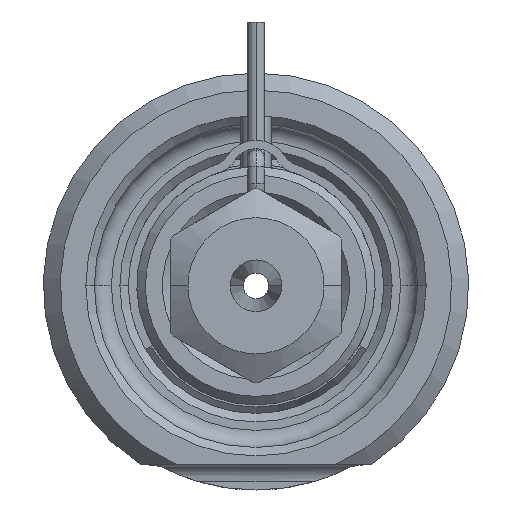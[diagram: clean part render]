
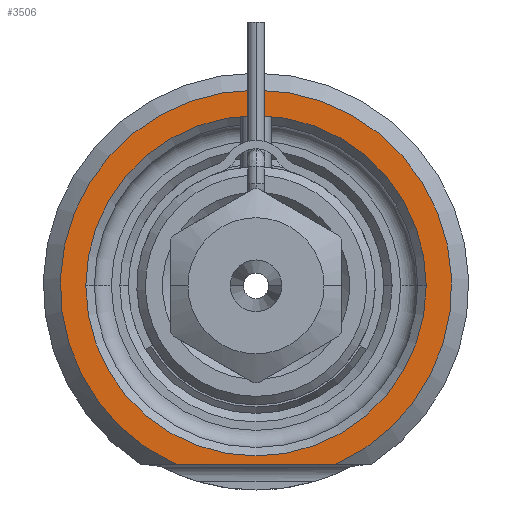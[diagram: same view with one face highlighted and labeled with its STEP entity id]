
A CAD part, front view. The second image highlights one B-rep face of the part: STEP entity #3506.
In plain terms, the highlighted planar face has unit normal (0, -1, 0).
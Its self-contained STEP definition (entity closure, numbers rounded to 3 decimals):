
#606=DIRECTION('',(1.,0.,0.));
#607=VECTOR('',#606,9.381);
#608=CARTESIAN_POINT('',(-4.69,0.,-10.5));
#609=LINE('',#608,#607);
#610=CARTESIAN_POINT('',(0.,0.,0.));
#611=DIRECTION('',(0.,1.,0.));
#612=DIRECTION('',(-1.,0.,0.));
#613=AXIS2_PLACEMENT_3D('',#610,#611,#612);
#615=CARTESIAN_POINT('',(0.,0.,0.));
#616=DIRECTION('',(0.,1.,0.));
#617=DIRECTION('',(1.,0.,0.));
#618=AXIS2_PLACEMENT_3D('',#615,#616,#617);
#689=CARTESIAN_POINT('',(0.,0.,0.));
#690=DIRECTION('',(0.,-1.,0.));
#691=DIRECTION('',(0.408,0.,-0.913));
#692=AXIS2_PLACEMENT_3D('',#689,#690,#691);
#2358=CARTESIAN_POINT('',(-10.,0.,0.));
#2359=CARTESIAN_POINT('',(10.,0.,0.));
#2360=VERTEX_POINT('',#2358);
#2361=VERTEX_POINT('',#2359);
#2416=CARTESIAN_POINT('',(-4.69,0.,-10.5));
#2417=CARTESIAN_POINT('',(4.69,0.,-10.5));
#2418=VERTEX_POINT('',#2416);
#2419=VERTEX_POINT('',#2417);
#3490=CARTESIAN_POINT('',(0.,0.,0.));
#3491=DIRECTION('',(0.,-1.,0.));
#3492=DIRECTION('',(1.,0.,0.));
#3493=AXIS2_PLACEMENT_3D('',#3490,#3491,#3492);
#3494=PLANE('',#3493);
#3496=ORIENTED_EDGE('',*,*,#3495,.F.);
#3498=ORIENTED_EDGE('',*,*,#3497,.F.);
#3499=EDGE_LOOP('',(#3496,#3498));
#3500=FACE_OUTER_BOUND('',#3499,.F.);
#3501=ORIENTED_EDGE('',*,*,#3480,.F.);
#3503=ORIENTED_EDGE('',*,*,#3502,.F.);
#3504=EDGE_LOOP('',(#3501,#3503));
#3505=FACE_BOUND('',#3504,.F.);
#3506=ADVANCED_FACE('',(#3500,#3505),#3494,.T.);
#614=CIRCLE('',#613,10.);
#619=CIRCLE('',#618,10.);
#693=CIRCLE('',#692,11.5);
#3480=EDGE_CURVE('',#2360,#2361,#614,.T.);
#3495=EDGE_CURVE('',#2418,#2419,#609,.T.);
#3497=EDGE_CURVE('',#2419,#2418,#693,.T.);
#3502=EDGE_CURVE('',#2361,#2360,#619,.T.);
